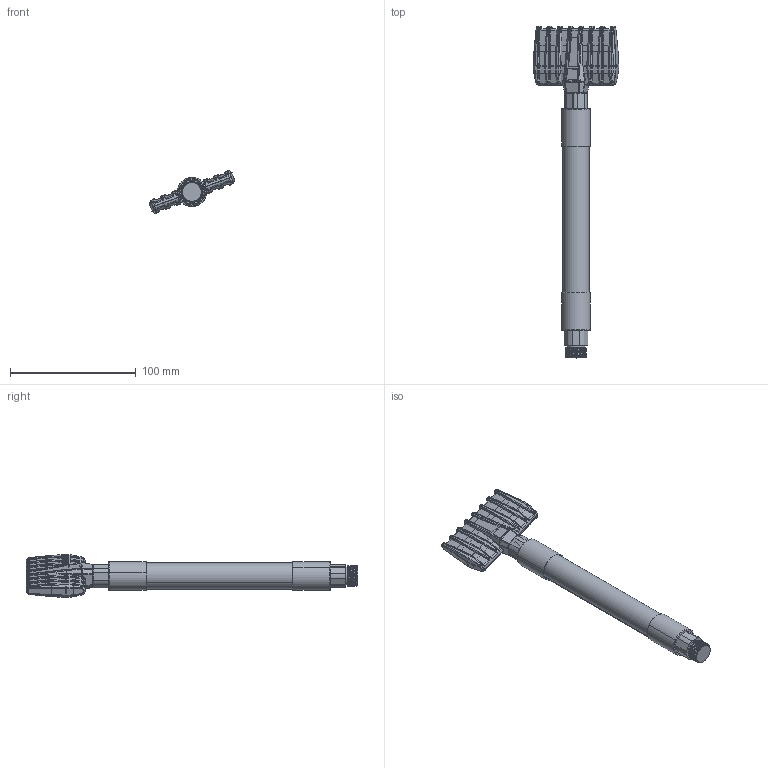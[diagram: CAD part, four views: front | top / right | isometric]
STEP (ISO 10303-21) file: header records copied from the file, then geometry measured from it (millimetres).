
FILE_DESCRIPTION (( 'STEP AP214' ), '1' );
FILE_NAME ('9005W-S-200.STEP', '2024-10-17T06:33:12', ( '' ), ( '' ), 'SwSTEP 2.0', 'SolidWorks 2021', '' );
FILE_SCHEMA (( 'AUTOMOTIVE_DESIGN' ));
Length unit declared in the file: millimetre
Products named in the file (8): 70039; 70078; 70038_M_BSP MALE; FB38 hose; 9005W-S; FB38; 70038_F_BSP FEMALE; 9005W-S-200
Assembly tree (8 placements, depth 3):
  9005W-S-200
    FB38
      70038_M_BSP MALE
      FB38 hose
      70039  x2
      70038_F_BSP FEMALE
    70078
    9005W-S
Bounding box: 67.83 x 263.5 x 33.8 mm (x, y, z)
Volume: 99930.8 mm3; surface area: 35686.5 mm2
Topology: 7 solids, 7 shells, 1760 faces, 5098 edges, 3309 vertices
Faces by surface type: cylinder 829, bspline 526, plane 265, torus 64, sphere 56, cone 20
Entity records: 84508 total; most frequent: CARTESIAN_POINT 36023, ORIENTED_EDGE 8434, DIRECTION 5596, EDGE_CURVE 4217, VERTEX_POINT 2610, AXIS2_PLACEMENT_3D 2177, EDGE_LOOP 1649, ADVANCED_FACE 1632
